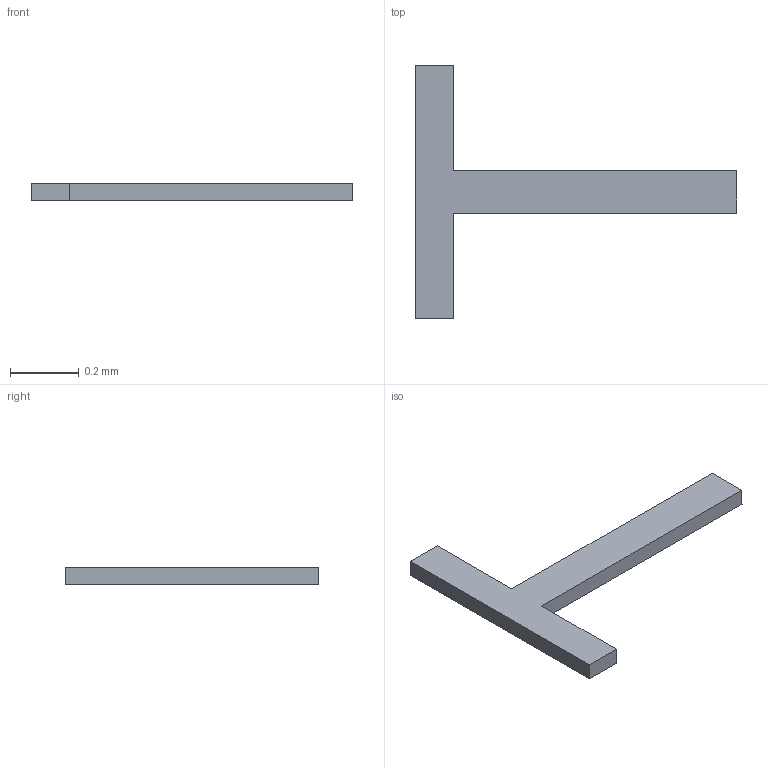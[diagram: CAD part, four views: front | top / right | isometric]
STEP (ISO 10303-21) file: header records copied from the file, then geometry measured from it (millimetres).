
FILE_DESCRIPTION(/* description */ ('STEP AP242 Edition 2','CAx-IF Rec.Pracs.---Representation and Presentation of Product Manufacturing Information (PMI)---4.0---2014-10-13','CAx-IF Rec.Pracs.---3D Tessellated Geometry---0.4---2014-09-14','2;1','CAx-IF Rec.Pracs.---User Defined Attributes---1.5---2016-08-15'),/* implementation_level */ '2;1');
FILE_NAME(/* name */ 'Drone Layout - Surface 303',/* time_stamp */ '2026-10-04T22:22:55Z',/* author */ (''),/* organization */ (''),/* preprocessor_version */ 'ST-DEVELOPER v20',/* originating_system */ 'ONSHAPE BY PTC INC, 1.221',/* authorisation */ ' ');
FILE_SCHEMA (('AP242_MANAGED_MODEL_BASED_3D_ENGINEERING_MIM_LF { 1 0 10303 442 3 1 4 }'));
Length unit declared in the file: metre
Products named in the file (1): Text_INT
Bounding box: 0.93 x 0.74 x 0.05 mm (x, y, z)
Volume: 0 mm3; surface area: 0.5 mm2
Topology: 1 solids, 1 shells, 10 faces, 24 edges, 16 vertices
Faces by surface type: plane 10
Entity records: 301 total; most frequent: CARTESIAN_POINT 51, ORIENTED_EDGE 48, DIRECTION 46, EDGE_CURVE 24, LINE 24, VECTOR 24, VERTEX_POINT 16, AXIS2_PLACEMENT_3D 11
